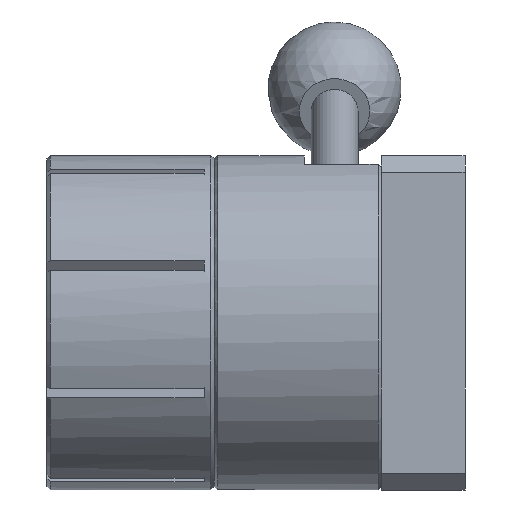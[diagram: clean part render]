
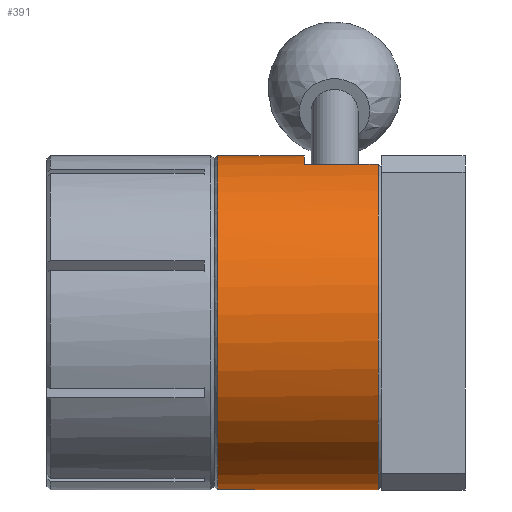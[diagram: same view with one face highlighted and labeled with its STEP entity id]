
A CAD part, left-side view. The second image highlights one B-rep face of the part: STEP entity #391.
In plain terms, the highlighted cylindrical face has radius 50 mm (diameter 100 mm), a full revolution.
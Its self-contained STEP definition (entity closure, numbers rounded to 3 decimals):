
#303=CYLINDRICAL_SURFACE('',#2007,50.);
#391=ADVANCED_FACE('',(#642,#643),#303,.T.);
#560=CIRCLE('',#2004,50.);
#561=CIRCLE('',#2005,50.);
#562=CIRCLE('',#2006,50.);
#642=FACE_BOUND('',#776,.T.);
#643=FACE_BOUND('',#777,.T.);
#776=EDGE_LOOP('',(#1167));
#777=EDGE_LOOP('',(#1168,#1169,#1170,#1171));
#1167=ORIENTED_EDGE('',*,*,#1588,.T.);
#1168=ORIENTED_EDGE('',*,*,#1584,.T.);
#1169=ORIENTED_EDGE('',*,*,#1589,.T.);
#1170=ORIENTED_EDGE('',*,*,#1577,.F.);
#1171=ORIENTED_EDGE('',*,*,#1590,.T.);
#1371=VERTEX_POINT('',#2975);
#1372=VERTEX_POINT('',#2976);
#1378=VERTEX_POINT('',#2995);
#1379=VERTEX_POINT('',#2997);
#1382=VERTEX_POINT('',#3006);
#1577=EDGE_CURVE('',#1371,#1372,#1710,.T.);
#1584=EDGE_CURVE('',#1379,#1378,#1715,.T.);
#1588=EDGE_CURVE('',#1382,#1382,#560,.T.);
#1589=EDGE_CURVE('',#1378,#1372,#561,.T.);
#1590=EDGE_CURVE('',#1371,#1379,#562,.T.);
#1710=LINE('',#2974,#1824);
#1715=LINE('',#2996,#1829);
#1824=VECTOR('',#2435,1.);
#1829=VECTOR('',#2442,1.);
#2004=AXIS2_PLACEMENT_3D('',#3005,#2451,#2452);
#2005=AXIS2_PLACEMENT_3D('',#3007,#2453,#2454);
#2006=AXIS2_PLACEMENT_3D('',#3008,#2455,#2456);
#2007=AXIS2_PLACEMENT_3D('',#3009,#2457,#2458);
#2435=DIRECTION('',(0.,-1.,0.));
#2442=DIRECTION('',(0.,-1.,0.));
#2451=DIRECTION('',(0.,-1.,0.));
#2452=DIRECTION('',(0.,0.,1.));
#2453=DIRECTION('',(0.,1.,0.));
#2454=DIRECTION('',(0.,0.,-1.));
#2455=DIRECTION('',(0.,1.,0.));
#2456=DIRECTION('',(0.,0.,1.));
#2457=DIRECTION('',(0.,1.,0.));
#2458=DIRECTION('',(0.,0.,-1.));
#2974=CARTESIAN_POINT('',(23996.748,-15861.188,47.477));
#2975=CARTESIAN_POINT('',(23996.748,-15888.188,47.477));
#2976=CARTESIAN_POINT('',(23996.748,-15910.188,47.477));
#2995=CARTESIAN_POINT('',(24062.409,-15910.188,1.5));
#2996=CARTESIAN_POINT('',(24062.409,-15861.188,1.5));
#2997=CARTESIAN_POINT('',(24062.409,-15888.188,1.5));
#3005=CARTESIAN_POINT('',(24012.431,-15862.188,0.));
#3006=CARTESIAN_POINT('',(24012.431,-15862.188,50.));
#3007=CARTESIAN_POINT('',(24012.431,-15910.188,0.));
#3008=CARTESIAN_POINT('',(24012.431,-15888.188,0.));
#3009=CARTESIAN_POINT('',(24012.431,-15911.188,0.));
